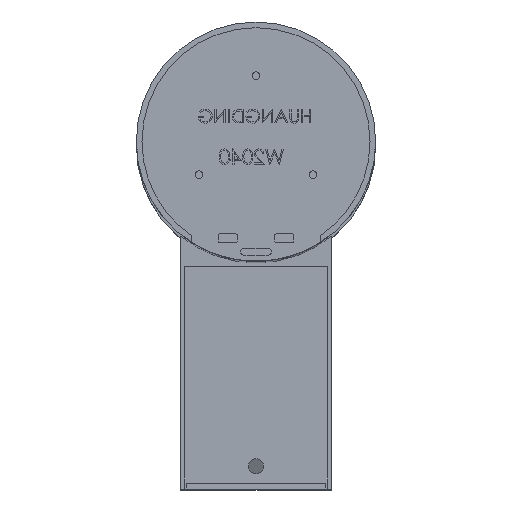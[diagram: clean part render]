
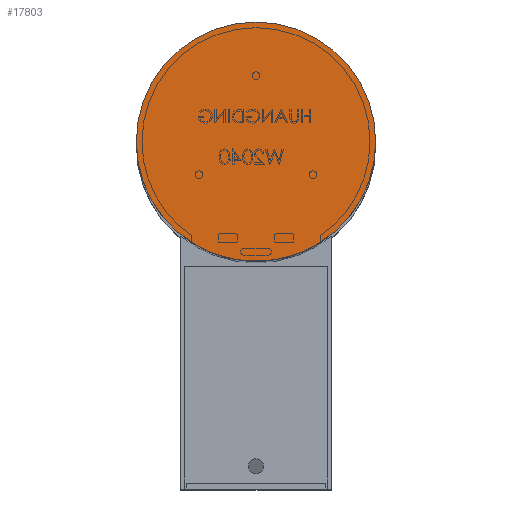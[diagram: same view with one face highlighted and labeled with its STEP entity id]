
A CAD part, top view. The second image highlights one B-rep face of the part: STEP entity #17803.
In plain terms, the highlighted planar face has unit normal (0, 0, 1) as drawn and (0, 0, -1) by its records, which use the part's own axes.
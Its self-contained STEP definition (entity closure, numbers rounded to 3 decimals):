
#193 = CIRCLE ( 'NONE', #19205, 31.75 ) ;
#338 = AXIS2_PLACEMENT_3D ( 'NONE', #3120, #3234, #21192 ) ;
#1033 = ORIENTED_EDGE ( 'NONE', *, *, #16019, .F. ) ;
#1058 = DIRECTION ( 'NONE',  ( 0., 0., 1. ) ) ;
#2426 = AXIS2_PLACEMENT_3D ( 'NONE', #10886, #18006, #21626 ) ;
#2847 = EDGE_CURVE ( 'NONE', #18534, #12731, #16577, .T. ) ;
#3120 = CARTESIAN_POINT ( 'NONE',  ( 0., 0., 0. ) ) ;
#3234 = DIRECTION ( 'NONE',  ( 0., 0., 1. ) ) ;
#6956 = FACE_OUTER_BOUND ( 'NONE', #12090, .T. ) ;
#9924 = DIRECTION ( 'NONE',  ( 1., 0., 0. ) ) ;
#10886 = CARTESIAN_POINT ( 'NONE',  ( 0., 0., 0. ) ) ;
#12090 = EDGE_LOOP ( 'NONE', ( #1033, #19067 ) ) ;
#12731 = VERTEX_POINT ( 'NONE', #21906 ) ;
#13623 = PLANE ( 'NONE',  #338 ) ;
#14165 = CARTESIAN_POINT ( 'NONE',  ( 31.75, 0., 0. ) ) ;
#16019 = EDGE_CURVE ( 'NONE', #12731, #18534, #193, .T. ) ;
#16577 = CIRCLE ( 'NONE', #2426, 31.75 ) ;
#17803 = ADVANCED_FACE ( 'NONE', ( #6956 ), #13623, .F. ) ;
#18006 = DIRECTION ( 'NONE',  ( 0., 0., 1. ) ) ;
#18534 = VERTEX_POINT ( 'NONE', #14165 ) ;
#19067 = ORIENTED_EDGE ( 'NONE', *, *, #2847, .F. ) ;
#19205 = AXIS2_PLACEMENT_3D ( 'NONE', #22402, #1058, #9924 ) ;
#21192 = DIRECTION ( 'NONE',  ( 1., 0., 0. ) ) ;
#21626 = DIRECTION ( 'NONE',  ( 1., 0., 0. ) ) ;
#21906 = CARTESIAN_POINT ( 'NONE',  ( -31.75, 0., 0. ) ) ;
#22402 = CARTESIAN_POINT ( 'NONE',  ( 0., 0., 0. ) ) ;
